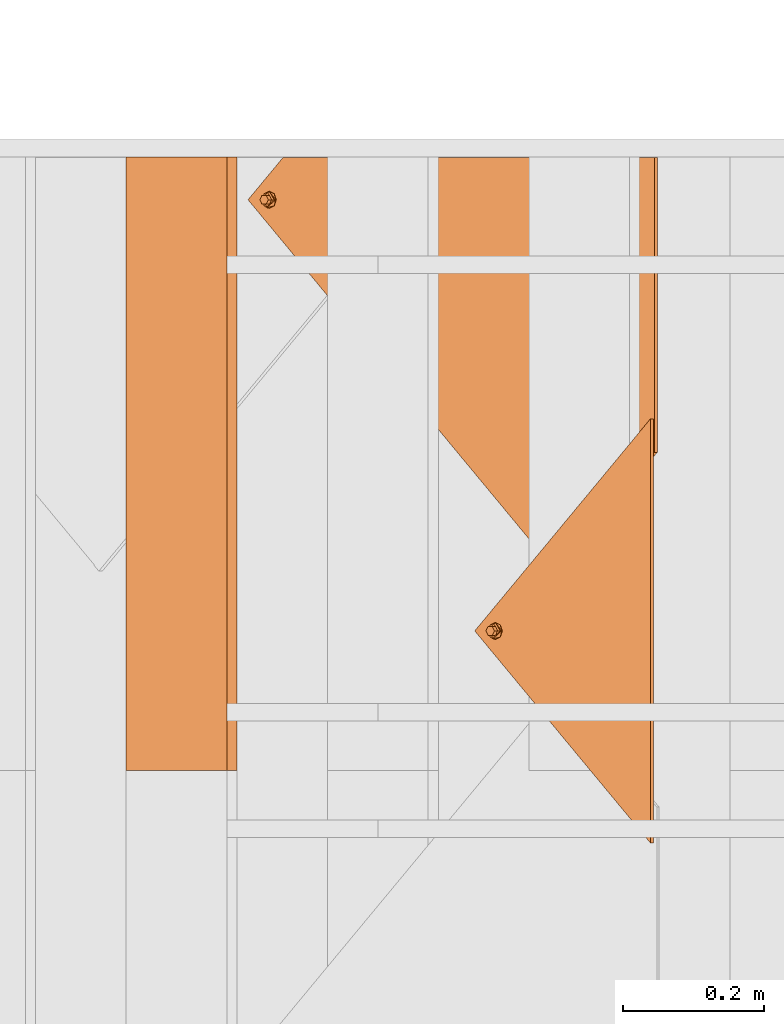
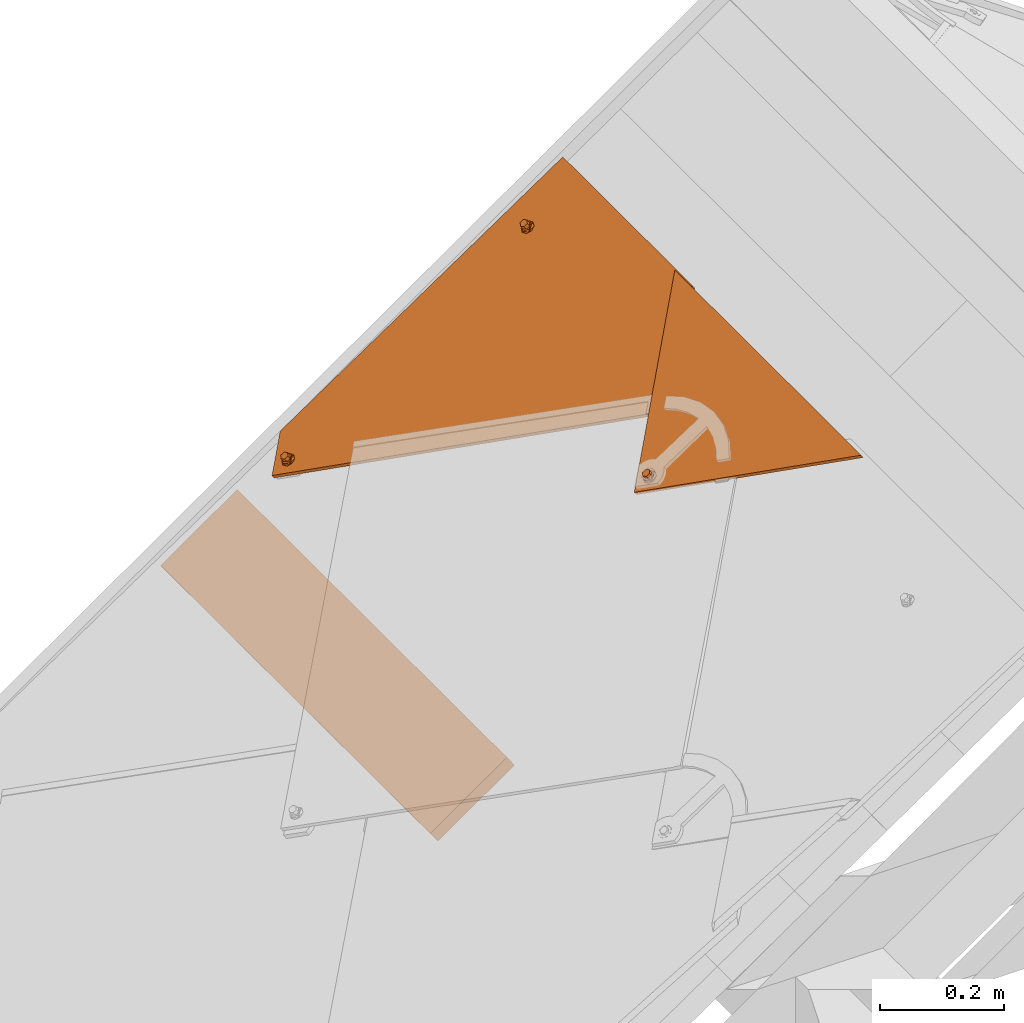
# One storey, part 108 of 133: 3 proxies, 1 element without a shape of its own.
"""IFC2X3 building model written with IfcOpenShell, lengths in millimetres."""

from ifc_helpers import new_model, entity, si_unit, converted_unit, derived_unit, direction, frame, frame_2d, origin, place, context, subcontext, project, spatial, rectangle, extrude, faceted_brep, source, transform, mapped, material, material_list, type_object, type_shapes, element, aggregate, save


model = new_model("IFC2X3")

# Units and contexts
model_context = context("Model", 3, precision=0.01, world=origin(), true_north=direction((6.12303176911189e-17, 1.0)))
body_context = subcontext(model_context, "Body", "Model", "MODEL_VIEW")
ifc_project = project(units=[si_unit("LENGTHUNIT", "METRE", prefix="MILLI"), si_unit("AREAUNIT", "SQUARE_METRE"), si_unit("VOLUMEUNIT", "CUBIC_METRE"), converted_unit("PLANEANGLEUNIT", "DEGREE", entity("IfcRatioMeasure", 0.0174532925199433), si_unit("PLANEANGLEUNIT", "RADIAN"), dimensions=[0, 0, 0, 0, 0, 0, 0]), si_unit("MASSUNIT", "GRAM", prefix="KILO"), derived_unit("MASSDENSITYUNIT", [(si_unit("MASSUNIT", "GRAM", prefix="KILO"), 1), (si_unit("LENGTHUNIT", "METRE"), -3)]), si_unit("TIMEUNIT", "SECOND"), si_unit("FREQUENCYUNIT", "HERTZ"), si_unit("THERMODYNAMICTEMPERATUREUNIT", "DEGREE_CELSIUS"), derived_unit("THERMALTRANSMITTANCEUNIT", [(si_unit("MASSUNIT", "GRAM", prefix="KILO"), 1), (si_unit("THERMODYNAMICTEMPERATUREUNIT", "KELVIN"), -1), (si_unit("TIMEUNIT", "SECOND"), -3)]), derived_unit("VOLUMETRICFLOWRATEUNIT", [(si_unit("LENGTHUNIT", "METRE"), 3), (si_unit("TIMEUNIT", "SECOND"), -1)]), si_unit("ELECTRICCURRENTUNIT", "AMPERE"), si_unit("ELECTRICVOLTAGEUNIT", "VOLT"), si_unit("POWERUNIT", "WATT"), si_unit("FORCEUNIT", "NEWTON", prefix="KILO"), si_unit("ILLUMINANCEUNIT", "LUX"), si_unit("LUMINOUSFLUXUNIT", "LUMEN"), si_unit("LUMINOUSINTENSITYUNIT", "CANDELA"), derived_unit("USERDEFINED", [(si_unit("MASSUNIT", "GRAM", prefix="KILO"), -1), (si_unit("LENGTHUNIT", "METRE"), -2), (si_unit("TIMEUNIT", "SECOND"), 3), (si_unit("LUMINOUSFLUXUNIT", "LUMEN"), 1)]), derived_unit("LINEARVELOCITYUNIT", [(si_unit("LENGTHUNIT", "METRE"), 1), (si_unit("TIMEUNIT", "SECOND"), -1)]), si_unit("PRESSUREUNIT", "PASCAL"), derived_unit("USERDEFINED", [(si_unit("LENGTHUNIT", "METRE"), -2), (si_unit("MASSUNIT", "GRAM", prefix="KILO"), 1), (si_unit("TIMEUNIT", "SECOND"), -2)])], contexts=[model_context])

# Site, building, storey
site_placement = place(None, origin())
site = spatial("IfcSite", under=ifc_project, at=site_placement, Name="Default", CompositionType="ELEMENT")
building_placement = place(site_placement, origin())
building = spatial("IfcBuilding", under=site, at=building_placement, CompositionType="ELEMENT")
storey_placement = place(building_placement, origin())
storey = spatial("IfcBuildingStorey", under=building, at=storey_placement, Name="Level 1", CompositionType="ELEMENT", Elevation=0.0)

# Assembly, proxy
assembly_placement = place(storey_placement, origin())
assembly = element("IfcElementAssembly", 1, at=assembly_placement, inside=storey, Name="Structural Framing Assembly:Roof Construction Assembly", ObjectType="Structural Framing Assembly:Roof Construction Assembly", AssemblyPlace="NOTDEFINED", PredefinedType="USERDEFINED")
ifc_material_1 = material(Name="Wood - Generic - Wood For Showcase")
building_element_proxy_type_1 = type_object("IfcBuildingElementProxyType", Name="Structural Framing 15", PredefinedType="NOTDEFINED", material=ifc_material_1)
shared_shape_1 = source(origin(), body_context, "Body", "SweptSolid", [
    extrude(rectangle(XDim=24.9999999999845, YDim=174.344679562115, at=frame_2d((-1.77635683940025e-13, -4.54747350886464e-13), x_axis=(0.0, 1.0))), frame((1128.20180147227, 3055.55080214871, 2760.23940055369), z_axis=(0.0, 1.0, 0.0), x_axis=(-0.819152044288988, 0.0, -0.573576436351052)), (0.0, 0.0, 1.0), 870.000000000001),
])
type_shapes(building_element_proxy_type_1, [shared_shape_1])
proxy_1_placement = place(assembly_placement, frame((-999.703604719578, 0.0, -700.0)))
proxy_1 = element("IfcBuildingElementProxy", 2, at=proxy_1_placement, type_object=building_element_proxy_type_1, material=ifc_material_1, Name="Structural Framing 54:Structural Framing 15", ObjectType="Structural Framing 54:Structural Framing 15", context=body_context, shape_type="MappedRepresentation", body=[
    mapped(shared_shape_1, transform((0.0, 0.0, 0.0), scale=1.0)),
])
aggregate(assembly, [proxy_1])

# Proxies
ifc_material_2 = material(Name="Rubber - Sunstyle - Black")
ifc_material_3 = material(Name="Glass - Sunstyle - Tainted Black")
ifc_material_list_1 = material_list([ifc_material_2, ifc_material_3])
ifc_material_list_2 = material_list([ifc_material_2, ifc_material_3])
building_element_proxy_type_2 = type_object("IfcBuildingElementProxyType", Name="Corner Top Big Left - Black", PredefinedType="NOTDEFINED", material=ifc_material_list_2)
shared_shape_2 = source(origin(), body_context, "Body", "Brep", [
    faceted_brep([(0.0, -33.9825851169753, -4.47296585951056), (-5.7742028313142, -37.3158552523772, -4.41714187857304), (-5.77420283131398, -36.9475461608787, 17.5747274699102), (0.0, -33.6142760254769, 17.5189034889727), (-5.77420283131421, -43.9823955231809, -4.30549391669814), (-5.77420283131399, -43.6140864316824, 17.6863754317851), (0.0, -47.3156656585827, -4.24966993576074), (0.0, -46.9473565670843, 17.7421994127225), (5.77420283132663, -43.9823955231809, -4.30549391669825), (5.77420283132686, -43.6140864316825, 17.686375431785), (5.77420283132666, -37.3158552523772, -4.41714187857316), (5.77420283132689, -36.9475461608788, 17.5747274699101), (-8.60370416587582, -48.8833141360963, 17.774621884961), (0.0, -52.4465854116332, 17.8342978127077), (-12.1674751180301, -40.2808162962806, 17.6305514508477), (-8.60370416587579, -31.6783184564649, 17.4864810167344), (0.0, -28.115047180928, 17.4268050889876), (8.60370416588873, -31.6783184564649, 17.4864810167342), (12.167475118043, -40.2808162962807, 17.6305514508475), (8.60370416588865, -48.8833141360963, 17.7746218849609), (-11.3242446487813, -37.9857391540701, 19.9433933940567), (-9.75647455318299, -40.2098014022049, 21.8708760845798), (0.0, -32.8967261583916, 22.5035764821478), (0.0, -31.6562285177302, 21.9232298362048), (0.0, -29.4986776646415, 20.9138547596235), (0.0, -51.8905414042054, 19.1093557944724), (0.0, -50.9469648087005, 21.273060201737), (0.0, -47.4975891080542, 22.748104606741), (0.0, -28.6280832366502, 18.719767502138), (-6.32324569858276, -43.8473733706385, 22.6869725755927), (-6.32324569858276, -36.5469418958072, 22.5647085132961), (11.3242446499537, -42.4971593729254, 20.0189484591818), (9.84888015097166, -41.2842078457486, 21.7920079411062), (6.32324569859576, -36.5469418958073, 22.564708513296), (6.32324569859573, -43.8473733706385, 22.6869725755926), (-6.32324569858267, -43.7133449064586, 30.6898607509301), (0.0, -47.3635606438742, 30.7509927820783), (0.0, -40.063129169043, 30.6287287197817), (-6.32324569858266, -36.4129134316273, 30.5675966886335), (6.32324569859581, -43.7133449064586, 30.68986075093), (6.32324569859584, -36.4129134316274, 30.5675966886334), (0.0, -32.7626976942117, 30.5064646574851), (0.0, -40.649125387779, -4.36131789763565)], [[[0, 1, 2, 3]], [[1, 4, 5, 2]], [[4, 6, 7, 5]], [[6, 8, 9, 7]], [[8, 10, 11, 9]], [[10, 0, 3, 11]], [[12, 7, 13]], [[7, 12, 5]], [[14, 5, 12]], [[5, 14, 2]], [[15, 2, 14]], [[3, 2, 15]], [[15, 16, 3]], [[16, 17, 3]], [[11, 3, 17]], [[11, 17, 18]], [[9, 11, 18]], [[18, 19, 9]], [[7, 9, 19]], [[19, 13, 7]], [[20, 14, 12]], [[21, 22, 23, 24]], [[24, 20, 21]], [[25, 20, 12]], [[26, 27, 21]], [[15, 14, 20]], [[12, 13, 25]], [[20, 28, 15]], [[28, 20, 24]], [[21, 27, 29]], [[21, 29, 30]], [[26, 21, 20]], [[20, 25, 26]], [[15, 28, 16]], [[21, 30, 22]], [[31, 18, 17]], [[28, 31, 17]], [[32, 27, 26]], [[26, 31, 32]], [[26, 25, 31]], [[25, 19, 31]], [[17, 16, 28]], [[31, 19, 18]], [[24, 31, 28]], [[33, 34, 32]], [[23, 22, 33]], [[24, 32, 31]], [[27, 32, 34]], [[32, 23, 33]], [[19, 25, 13]], [[32, 24, 23]], [[35, 36, 37]], [[37, 38, 35]], [[36, 39, 37]], [[40, 37, 39]], [[37, 40, 41]], [[37, 41, 38]], [[42, 6, 4]], [[4, 1, 42]], [[1, 0, 42]], [[42, 8, 6]], [[0, 10, 42]], [[8, 42, 10]], [[22, 30, 38, 41]], [[30, 29, 35, 38]], [[29, 27, 36, 35]], [[27, 34, 39, 36]], [[34, 33, 40, 39]], [[33, 22, 41, 40]]]),
    faceted_brep([(0.0, -572.517457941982, 4.0063690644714), (-5.77420283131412, -575.850728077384, 4.06219304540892), (-5.77420283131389, -575.482418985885, 26.0540623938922), (0.0, -572.149148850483, 25.9982384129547), (-5.77420283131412, -582.517268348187, 4.17384100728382), (-5.7742028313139, -582.148959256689, 26.1657103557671), (0.0, -585.850538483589, 4.22966498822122), (0.0, -585.482229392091, 26.2215343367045), (5.77420283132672, -582.517268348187, 4.17384100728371), (5.77420283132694, -582.148959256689, 26.165710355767), (5.77420283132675, -575.850728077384, 4.0621930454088), (5.77420283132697, -575.482418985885, 26.0540623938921), (-8.60370416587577, -587.418186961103, 26.253956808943), (0.0, -590.98145823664, 26.3136327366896), (-12.1674751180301, -578.815689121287, 26.1098863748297), (-8.60370416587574, -570.213191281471, 25.9658159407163), (0.0, -566.649920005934, 25.9061400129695), (8.60370416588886, -570.213191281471, 25.9658159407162), (12.1674751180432, -578.815689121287, 26.1098863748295), (8.60370416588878, -587.418186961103, 26.2539568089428), (-11.3242446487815, -576.520611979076, 28.4227283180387), (-9.75647455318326, -578.744674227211, 30.3502110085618), (0.0, -571.431598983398, 30.9829114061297), (0.0, -570.191101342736, 30.4025647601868), (0.0, -568.033550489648, 29.3931896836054), (0.0, -590.425414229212, 27.5886907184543), (0.0, -589.481837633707, 29.752395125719), (0.0, -586.032461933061, 31.227439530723), (0.0, -567.162956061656, 27.1991024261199), (-6.32324569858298, -582.382246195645, 31.1663074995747), (-6.32324569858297, -575.081814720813, 31.0440434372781), (11.3242446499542, -581.032032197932, 28.4982833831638), (9.8488801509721, -579.819080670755, 30.2713428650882), (6.32324569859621, -575.081814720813, 31.044043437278), (6.32324569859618, -582.382246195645, 31.1663074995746), (-6.32324569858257, -582.248217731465, 39.1691956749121), (0.0, -585.898433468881, 39.2303277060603), (0.0, -578.598001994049, 39.1080636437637), (-6.32324569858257, -574.947786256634, 39.0469316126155), (6.32324569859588, -582.248217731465, 39.1691956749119), (6.32324569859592, -574.947786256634, 39.0469316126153), (0.0, -571.297570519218, 38.9857995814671), (0.0, -579.183998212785, 4.1180170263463)], [[[0, 1, 2, 3]], [[1, 4, 5, 2]], [[4, 6, 7, 5]], [[6, 8, 9, 7]], [[8, 10, 11, 9]], [[10, 0, 3, 11]], [[12, 7, 13]], [[7, 12, 5]], [[14, 5, 12]], [[5, 14, 2]], [[15, 2, 14]], [[3, 2, 15]], [[15, 16, 3]], [[16, 17, 3]], [[11, 3, 17]], [[11, 17, 18]], [[9, 11, 18]], [[18, 19, 9]], [[7, 9, 19]], [[19, 13, 7]], [[20, 14, 12]], [[21, 22, 23, 24]], [[24, 20, 21]], [[25, 20, 12]], [[26, 27, 21]], [[15, 14, 20]], [[12, 13, 25]], [[20, 28, 15]], [[28, 20, 24]], [[21, 27, 29]], [[21, 29, 30]], [[26, 21, 20]], [[20, 25, 26]], [[15, 28, 16]], [[21, 30, 22]], [[31, 18, 17]], [[28, 31, 17]], [[32, 27, 26]], [[26, 31, 32]], [[26, 25, 31]], [[25, 19, 31]], [[17, 16, 28]], [[31, 19, 18]], [[24, 31, 28]], [[33, 34, 32]], [[23, 22, 33]], [[24, 32, 31]], [[27, 32, 34]], [[32, 23, 33]], [[19, 25, 13]], [[32, 24, 23]], [[35, 36, 37]], [[37, 38, 35]], [[36, 39, 37]], [[40, 37, 39]], [[37, 40, 41]], [[37, 41, 38]], [[42, 6, 4]], [[4, 1, 42]], [[1, 0, 42]], [[42, 8, 6]], [[0, 10, 42]], [[8, 42, 10]], [[22, 30, 38, 41]], [[30, 29, 35, 38]], [[29, 27, 36, 35]], [[27, 34, 39, 36]], [[34, 33, 40, 39]], [[33, 22, 41, 40]]]),
    faceted_brep([(518.469870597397, -96.888376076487, 17.926263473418), (526.954557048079, -88.4036896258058, 17.7841660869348), (526.954557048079, -88.3785718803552, 19.2839557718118), (518.469870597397, -96.8632583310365, 19.426053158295), (349.749078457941, 71.7851066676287, 15.1014023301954), (358.233764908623, 80.2697931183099, 14.9593049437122), (358.233764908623, 80.2949108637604, 16.4590946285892), (349.749078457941, 71.8102244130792, 16.6011920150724)], [[[0, 1, 2, 3]], [[1, 0, 4, 5]], [[2, 1, 5, 6]], [[3, 2, 6, 7]], [[0, 3, 7, 4]], [[4, 7, 6, 5]]]),
    faceted_brep([(358.233764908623, 80.2697931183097, 14.9593049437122), (6.92820323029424, -35.9783347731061, 16.9061718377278), (7.72740661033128, -37.9075118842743, 16.9384807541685), (5.6568542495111, -34.321712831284, 16.8784275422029), (8.0, -39.9777739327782, 16.9731524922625), (7.72740661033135, -42.0480359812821, 17.0078242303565), (6.92820323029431, -43.9772130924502, 17.0401331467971), (526.954557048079, -88.4036896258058, 17.7841660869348), (-60.1037538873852, 80.269793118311, 14.9593049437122), (4.0, -33.0505421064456, 16.8571385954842), (2.07055236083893, -32.2514507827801, 16.8437558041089), (0.0, -31.9788956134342, 16.8391911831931), (-2.07055236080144, -32.2514507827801, 16.8437558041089), (-4.0, -33.0505421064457, 16.8571385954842), (-5.6568542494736, -34.321712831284, 16.8784275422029), (-6.92820323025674, -35.9783347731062, 16.9061718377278), (-7.72740661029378, -37.9075118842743, 16.9384807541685), (-8.0, -39.9777739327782, 16.9731524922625), (-7.72740661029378, -42.0480359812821, 17.0078242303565), (-60.1037538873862, -555.122942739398, 25.6005522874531), (-6.92820323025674, -43.9772130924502, 17.0401331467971), (-5.6568542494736, -45.6338350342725, 17.067877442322), (-4.0, -46.9050057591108, 17.0891663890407), (-2.07055236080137, -47.7040970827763, 17.102549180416), (0.0, -47.9766522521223, 17.1071138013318), (2.07055236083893, -47.7040970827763, 17.102549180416), (2.00505600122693, -570.990105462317, 25.8662877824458), (-0.0654963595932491, -570.717550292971, 25.8617231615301), (-2.13604872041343, -570.990105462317, 25.8662877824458), (-4.06549635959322, -571.789196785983, 25.8796705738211), (-5.7223506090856, -573.060367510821, 25.9009595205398), (-6.99369958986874, -574.716989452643, 25.9287038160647), (-7.79290296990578, -576.646166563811, 25.9610127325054), (-8.06549635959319, -578.716428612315, 25.9956844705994), (-7.79290296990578, -580.786690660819, 26.0303562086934), (-6.99369958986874, -582.715867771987, 26.062665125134), (0.00032251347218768, -615.210165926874, 26.6068637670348), (7.66191025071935, -580.786690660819, 26.0303562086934), (6.86270687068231, -582.715867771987, 26.062665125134), (5.59135788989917, -584.37248971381, 26.0904094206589), (3.93450364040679, -585.643660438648, 26.1116983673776), (2.005056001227, -586.442751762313, 26.1250811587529), (-0.0654963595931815, -586.715306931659, 26.1296457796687), (-2.13604872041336, -586.442751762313, 26.1250811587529), (-4.06549635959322, -585.643660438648, 26.1116983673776), (-5.7223506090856, -584.37248971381, 26.0904094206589), (3.93450364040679, -571.789196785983, 25.8796705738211), (4.0, -46.9050057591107, 17.0891663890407), (5.59135788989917, -573.060367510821, 25.9009595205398), (5.65685424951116, -45.6338350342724, 17.067877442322), (6.86270687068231, -574.716989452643, 25.9287038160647), (7.66191025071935, -576.646166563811, 25.9610127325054), (7.93450364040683, -578.716428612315, 25.9956844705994), (-60.1037538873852, 80.1442043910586, 7.46035651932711), (-6.92820323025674, -36.1039235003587, 9.40722341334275), (-7.72740661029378, -38.0331006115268, 9.4395323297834), (-5.6568542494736, -34.4473015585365, 9.37947911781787), (-8.0, -40.1033626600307, 9.4742040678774), (-7.72740661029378, -42.1736247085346, 9.5088758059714), (-60.1037538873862, -555.248531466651, 18.101603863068), (-4.0, -33.1761308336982, 9.35819017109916), (-2.07055236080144, -32.3770395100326, 9.34480737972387), (0.0, -32.1044843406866, 9.34024275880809), (2.07055236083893, -32.3770395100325, 9.34480737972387), (4.0, -33.1761308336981, 9.35819017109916), (5.6568542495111, -34.4473015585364, 9.37947911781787), (358.233764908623, 80.1442043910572, 7.46035651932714), (6.92820323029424, -36.1039235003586, 9.40722341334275), (7.72740661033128, -38.0331006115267, 9.4395323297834), (8.0, -40.1033626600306, 9.4742040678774), (7.72740661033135, -42.1736247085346, 9.5088758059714), (6.92820323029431, -44.1028018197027, 9.54118472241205), (526.954557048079, -88.5292783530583, 10.2852176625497), (5.65685424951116, -45.7594237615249, 9.56892901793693), (5.59135788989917, -573.185956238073, 18.4020110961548), (6.86270687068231, -574.842578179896, 18.4297553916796), (7.66191025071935, -576.771755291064, 18.4620643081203), (7.93450364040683, -578.842017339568, 18.4967360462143), (7.66191025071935, -580.912279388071, 18.5314077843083), (0.00032251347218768, -615.335754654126, 19.1079153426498), (-6.99369958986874, -582.84145649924, 18.563716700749), (-5.7223506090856, -584.498078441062, 18.5914609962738), (-4.06549635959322, -585.7692491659, 18.6127499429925), (-2.13604872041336, -586.568340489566, 18.6261327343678), (-0.0654963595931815, -586.840895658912, 18.6306973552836), (2.005056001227, -586.568340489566, 18.6261327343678), (3.93450364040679, -585.7692491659, 18.6127499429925), (5.59135788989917, -584.498078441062, 18.5914609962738), (6.86270687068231, -582.84145649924, 18.563716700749), (4.0, -47.0305944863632, 9.59021796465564), (3.93450364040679, -571.914785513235, 18.3807221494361), (2.07055236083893, -47.8296858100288, 9.60360075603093), (2.00505600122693, -571.115694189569, 18.3673393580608), (-0.0654963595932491, -570.843139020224, 18.362774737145), (-2.13604872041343, -571.11569418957, 18.3673393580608), (-4.06549635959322, -571.914785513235, 18.3807221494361), (-5.7223506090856, -573.185956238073, 18.4020110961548), (-6.99369958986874, -574.842578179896, 18.4297553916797), (-7.79290296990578, -576.771755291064, 18.4620643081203), (-8.06549635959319, -578.842017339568, 18.4967360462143), (-7.79290296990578, -580.912279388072, 18.5314077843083), (0.0, -48.1022409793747, 9.60816537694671), (-6.92820323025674, -44.1028018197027, 9.54118472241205), (-5.6568542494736, -45.7594237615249, 9.56892901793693), (-4.0, -47.0305944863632, 9.59021796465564), (-2.07055236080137, -47.8296858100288, 9.60360075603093)], [[[0, 1, 2]], [[1, 0, 3]], [[0, 2, 4]], [[4, 5, 0]], [[5, 6, 0]], [[7, 0, 6]], [[8, 3, 0]], [[8, 9, 3]], [[8, 10, 9]], [[11, 10, 8]], [[12, 11, 8]], [[13, 12, 8]], [[8, 14, 13]], [[14, 8, 15]], [[15, 8, 16]], [[17, 16, 8]], [[18, 17, 8]], [[18, 8, 19]], [[19, 20, 18]], [[21, 20, 19]], [[22, 21, 19]], [[23, 22, 19]], [[19, 24, 23]], [[19, 25, 24]], [[26, 25, 19]], [[26, 19, 27]], [[28, 27, 19]], [[29, 28, 19]], [[29, 19, 30]], [[19, 31, 30]], [[31, 19, 32]], [[32, 19, 33]], [[34, 33, 19]], [[35, 34, 19]], [[35, 19, 36]], [[7, 37, 36]], [[36, 37, 38]], [[39, 36, 38]], [[39, 40, 36]], [[41, 36, 40]], [[42, 36, 41]], [[42, 43, 36]], [[43, 44, 36]], [[45, 35, 36]], [[45, 36, 44]], [[25, 26, 46]], [[46, 47, 25]], [[48, 47, 46]], [[48, 49, 47]], [[50, 7, 48]], [[48, 7, 49]], [[7, 50, 51]], [[7, 51, 52]], [[52, 37, 7]], [[7, 6, 49]], [[53, 54, 55]], [[54, 53, 56]], [[53, 55, 57]], [[58, 53, 57]], [[53, 58, 59]], [[60, 56, 53]], [[61, 60, 53]], [[53, 62, 61]], [[62, 53, 63]], [[63, 53, 64]], [[53, 65, 64]], [[65, 53, 66]], [[66, 67, 65]], [[67, 66, 68]], [[68, 66, 69]], [[70, 69, 66]], [[71, 70, 66]], [[71, 66, 72]], [[72, 73, 71]], [[73, 72, 74]], [[74, 72, 75]], [[75, 72, 76]], [[77, 76, 72]], [[78, 77, 72]], [[78, 72, 79]], [[59, 80, 79]], [[79, 80, 81]], [[79, 81, 82]], [[82, 83, 79]], [[83, 84, 79]], [[79, 84, 85]], [[79, 85, 86]], [[86, 87, 79]], [[79, 87, 88]], [[79, 88, 78]], [[73, 74, 89]], [[90, 89, 74]], [[90, 91, 89]], [[91, 90, 92]], [[93, 59, 92]], [[92, 59, 91]], [[93, 94, 59]], [[94, 95, 59]], [[95, 96, 59]], [[97, 59, 96]], [[97, 98, 59]], [[98, 99, 59]], [[99, 100, 59]], [[100, 80, 59]], [[59, 101, 91]], [[102, 59, 58]], [[102, 103, 59]], [[103, 104, 59]], [[104, 105, 59]], [[59, 105, 101]], [[36, 19, 59, 79]], [[7, 36, 79, 72]], [[0, 7, 72, 66]], [[33, 99, 98, 32]], [[32, 98, 97, 31]], [[29, 30, 96, 95]], [[96, 30, 31, 97]], [[28, 29, 95, 94]], [[28, 94, 93, 27]], [[27, 93, 92, 26]], [[26, 92, 90, 46]], [[50, 48, 74, 75]], [[74, 48, 46, 90]], [[51, 50, 75, 76]], [[51, 76, 77, 52]], [[52, 77, 78, 37]], [[37, 78, 88, 38]], [[40, 39, 87, 86]], [[87, 39, 38, 88]], [[41, 40, 86, 85]], [[41, 85, 84, 42]], [[42, 84, 83, 43]], [[43, 83, 82, 44]], [[35, 45, 81, 80]], [[81, 45, 44, 82]], [[34, 35, 80, 100]], [[34, 100, 99, 33]], [[17, 57, 55, 16]], [[16, 55, 54, 15]], [[13, 14, 56, 60]], [[56, 14, 15, 54]], [[12, 13, 60, 61]], [[12, 61, 62, 11]], [[11, 62, 63, 10]], [[10, 63, 64, 9]], [[1, 3, 65, 67]], [[65, 3, 9, 64]], [[2, 1, 67, 68]], [[2, 68, 69, 4]], [[4, 69, 70, 5]], [[5, 70, 71, 6]], [[47, 49, 73, 89]], [[73, 49, 6, 71]], [[25, 47, 89, 91]], [[25, 91, 101, 24]], [[24, 101, 105, 23]], [[23, 105, 104, 22]], [[20, 21, 103, 102]], [[103, 21, 22, 104]], [[18, 20, 102, 58]], [[18, 58, 57, 17]], [[19, 8, 53, 59]], [[8, 0, 66, 53]]]),
])
type_shapes(building_element_proxy_type_2, [shared_shape_2])
proxy_2_placement = place(storey_placement, frame((741.905871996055, 3865.09519417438, 2505.01176111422), z_axis=(-0.57357643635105, 0.0, 0.819152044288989), x_axis=(0.0, -1.0, 0.0)))
element("IfcBuildingElementProxy", 3, at=proxy_2_placement, inside=storey, type_object=building_element_proxy_type_2, material=ifc_material_list_1, Name="Roofing_Panels_SunStyle_Tile_Corner-Top-Big-Left:Corner Top Big Left - Black", ObjectType="Roofing_Panels_SunStyle_Tile_Corner-Top-Big-Left:Corner Top Big Left - Black", context=body_context, shape_type="MappedRepresentation", body=[
    mapped(shared_shape_2, transform((0.0, 0.0, 0.0), scale=1.0)),
])
ifc_material_list_3 = material_list([ifc_material_2, ifc_material_3])
ifc_material_list_4 = material_list([ifc_material_2, ifc_material_3])
building_element_proxy_type_3 = type_object("IfcBuildingElementProxyType", Name="Shingle Top Small - Black", PredefinedType="NOTDEFINED", material=ifc_material_list_4)
shared_shape_3 = source(origin(), body_context, "Body", "Brep", [
    faceted_brep([(300.675008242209, 41.77298489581, 1.59527223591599), (294.900805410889, 38.4397147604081, 1.65109621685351), (294.900805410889, 38.8080238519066, 23.6429655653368), (300.675008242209, 42.1412939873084, 23.5871415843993), (294.900805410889, 31.7731744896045, 1.76274417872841), (294.900805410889, 32.1414835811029, 23.7546135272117), (300.675008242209, 28.4399043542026, 1.81856815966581), (300.675008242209, 28.808213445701, 23.8104375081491), (306.44921107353, 31.7731744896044, 1.7627441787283), (306.44921107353, 32.1414835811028, 23.7546135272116), (306.44921107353, 38.4397147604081, 1.65109621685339), (306.44921107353, 38.8080238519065, 23.6429655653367), (292.071304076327, 26.8722558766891, 23.8428599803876), (300.675008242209, 23.3089846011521, 23.9025359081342), (288.507533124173, 35.4747537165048, 23.6987895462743), (292.071304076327, 44.0772515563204, 23.5547191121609), (300.675008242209, 47.6405228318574, 23.4950431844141), (309.278712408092, 44.0772515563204, 23.5547191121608), (312.842483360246, 35.4747537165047, 23.6987895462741), (309.278712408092, 26.872255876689, 23.8428599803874), (289.350763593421, 37.7698308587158, 26.0116314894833), (290.91853368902, 35.5457686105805, 27.9391141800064), (300.67500824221, 42.8588438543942, 28.5718145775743), (300.67500824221, 44.0993414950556, 27.9914679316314), (300.675008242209, 46.2568923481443, 26.98209285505), (300.675008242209, 23.8650286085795, 25.1775938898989), (300.675008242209, 24.8086052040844, 27.3412982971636), (300.675008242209, 28.2579809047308, 28.8163427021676), (300.675008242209, 47.1274867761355, 24.7880055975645), (294.35176254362, 31.9081966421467, 28.7552106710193), (294.35176254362, 39.2086281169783, 28.6329466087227), (311.999252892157, 33.2584106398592, 26.0871865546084), (310.523888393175, 34.4713621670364, 27.8602460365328), (306.998253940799, 39.2086281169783, 28.6329466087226), (306.998253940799, 31.9081966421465, 28.7552106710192), (294.35176254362, 32.0422251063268, 36.7580988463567), (300.67500824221, 28.3920093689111, 36.8192308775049), (300.67500824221, 35.6924408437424, 36.6969668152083), (294.35176254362, 39.342656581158, 36.6358347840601), (306.998253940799, 32.0422251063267, 36.7580988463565), (306.998253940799, 39.342656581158, 36.6358347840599), (300.67500824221, 42.9928723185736, 36.5747027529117), (300.675008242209, 35.1064446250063, 1.7069201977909)], [[[0, 1, 2, 3]], [[1, 4, 5, 2]], [[4, 6, 7, 5]], [[6, 8, 9, 7]], [[8, 10, 11, 9]], [[10, 0, 3, 11]], [[12, 7, 13]], [[7, 12, 5]], [[14, 5, 12]], [[5, 14, 2]], [[15, 2, 14]], [[3, 2, 15]], [[15, 16, 3]], [[16, 17, 3]], [[11, 3, 17]], [[11, 17, 18]], [[9, 11, 18]], [[18, 19, 9]], [[7, 9, 19]], [[19, 13, 7]], [[20, 14, 12]], [[21, 22, 23, 24]], [[24, 20, 21]], [[25, 20, 12]], [[26, 27, 21]], [[15, 14, 20]], [[12, 13, 25]], [[20, 28, 15]], [[28, 20, 24]], [[21, 27, 29]], [[21, 29, 30]], [[26, 21, 20]], [[20, 25, 26]], [[15, 28, 16]], [[21, 30, 22]], [[31, 18, 17]], [[28, 31, 17]], [[32, 27, 26]], [[26, 31, 32]], [[26, 25, 31]], [[25, 19, 31]], [[17, 16, 28]], [[31, 19, 18]], [[24, 31, 28]], [[33, 34, 32]], [[23, 22, 33]], [[24, 32, 31]], [[27, 32, 34]], [[32, 23, 33]], [[19, 25, 13]], [[32, 24, 23]], [[35, 36, 37]], [[37, 38, 35]], [[36, 39, 37]], [[40, 37, 39]], [[37, 40, 41]], [[37, 41, 38]], [[42, 6, 4]], [[4, 1, 42]], [[1, 0, 42]], [[42, 8, 6]], [[0, 10, 42]], [[8, 42, 10]], [[22, 30, 38, 41]], [[30, 29, 35, 38]], [[29, 27, 36, 35]], [[27, 34, 39, 36]], [[34, 33, 40, 39]], [[33, 22, 41, 40]]]),
    faceted_brep([(601.350661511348, 300.716609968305, 19.1616152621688), (307.603211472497, 39.4797476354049, 23.5366826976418), (308.402414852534, 37.5505705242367, 23.5689916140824), (306.331862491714, 41.1363695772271, 23.5089384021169), (308.675008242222, 35.4803084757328, 23.6036633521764), (304.675008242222, 42.4075403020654, 23.4876494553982), (302.745560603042, 43.206631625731, 23.4742666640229), (300.675008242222, 43.4791867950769, 23.4697020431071), (308.402414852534, 33.4100464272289, 23.6383350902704), (300.675330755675, 0.125588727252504, 24.1957669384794), (0.0, 300.716609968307, 19.1616152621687), (298.604455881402, 43.2066316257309, 23.4742666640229), (296.675008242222, 42.4075403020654, 23.4876494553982), (295.018153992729, 41.136369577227, 23.5089384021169), (293.746805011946, 39.4797476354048, 23.5366826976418), (292.947601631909, 37.5505705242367, 23.5689916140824), (292.675008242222, 35.4803084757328, 23.6036633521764), (292.947601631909, 33.4100464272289, 23.6383350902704), (293.746805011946, 31.4808693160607, 23.6706440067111), (307.603211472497, 31.4808693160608, 23.6706440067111), (306.331862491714, 29.8242473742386, 23.698388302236), (304.675008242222, 28.5530766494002, 23.7196772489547), (302.745560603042, 27.7539853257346, 23.73306004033), (300.675008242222, 27.4814301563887, 23.7376246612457), (298.604455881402, 27.7539853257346, 23.73306004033), (296.675008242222, 28.5530766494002, 23.7196772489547), (295.018153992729, 29.8242473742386, 23.698388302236), (0.0, 300.591021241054, 11.6626668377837), (295.018153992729, 41.0107808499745, 16.0099899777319), (293.746805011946, 39.3541589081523, 16.0377342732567), (296.675008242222, 42.2819515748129, 15.9887010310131), (292.947601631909, 37.4249817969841, 16.0700431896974), (298.604455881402, 43.0810428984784, 15.9753182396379), (300.675008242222, 43.3535980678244, 15.9707536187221), (601.350661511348, 300.591021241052, 11.6626668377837), (292.675008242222, 35.3547197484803, 16.1047149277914), (292.947601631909, 33.2844576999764, 16.1393866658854), (300.675330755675, 0.0, 16.6968185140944), (302.745560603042, 43.0810428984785, 15.9753182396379), (304.675008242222, 42.2819515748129, 15.9887010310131), (306.331862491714, 41.0107808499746, 16.0099899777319), (307.603211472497, 39.3541589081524, 16.0377342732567), (308.402414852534, 37.4249817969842, 16.0700431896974), (308.675008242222, 35.3547197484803, 16.1047149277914), (308.402414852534, 33.2844576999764, 16.1393866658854), (307.603211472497, 31.3552805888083, 16.171695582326), (293.746805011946, 31.3552805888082, 16.171695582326), (295.018153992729, 29.6986586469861, 16.1994398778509), (296.675008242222, 28.4274879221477, 16.2207288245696), (298.604455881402, 27.6283965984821, 16.2341116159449), (300.675008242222, 27.3558414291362, 16.2386762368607), (302.745560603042, 27.6283965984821, 16.2341116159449), (304.675008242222, 28.4274879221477, 16.2207288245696), (306.331862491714, 29.6986586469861, 16.1994398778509)], [[[0, 1, 2]], [[1, 0, 3]], [[0, 2, 4]], [[5, 3, 0]], [[6, 5, 0]], [[0, 7, 6]], [[4, 8, 0]], [[8, 9, 0]], [[7, 0, 10]], [[11, 7, 10]], [[12, 11, 10]], [[10, 13, 12]], [[13, 10, 14]], [[15, 14, 10]], [[10, 16, 15]], [[17, 16, 10]], [[10, 9, 17]], [[17, 9, 18]], [[8, 19, 9]], [[20, 9, 19]], [[20, 21, 9]], [[22, 9, 21]], [[23, 9, 22]], [[23, 24, 9]], [[24, 25, 9]], [[25, 26, 9]], [[9, 26, 18]], [[27, 28, 29]], [[28, 27, 30]], [[27, 29, 31]], [[32, 30, 27]], [[33, 32, 27]], [[27, 34, 33]], [[31, 35, 27]], [[35, 36, 27]], [[27, 36, 37]], [[38, 33, 34]], [[39, 38, 34]], [[40, 39, 34]], [[34, 41, 40]], [[41, 34, 42]], [[43, 42, 34]], [[34, 44, 43]], [[37, 44, 34]], [[45, 44, 37]], [[37, 36, 46]], [[37, 46, 47]], [[47, 48, 37]], [[48, 49, 37]], [[50, 37, 49]], [[50, 51, 37]], [[37, 51, 52]], [[52, 53, 37]], [[45, 37, 53]], [[9, 10, 27, 37]], [[0, 9, 37, 34]], [[16, 35, 31, 15]], [[15, 31, 29, 14]], [[12, 13, 28, 30]], [[28, 13, 14, 29]], [[11, 12, 30, 32]], [[11, 32, 33, 7]], [[7, 33, 38, 6]], [[6, 38, 39, 5]], [[1, 3, 40, 41]], [[40, 3, 5, 39]], [[2, 1, 41, 42]], [[2, 42, 43, 4]], [[4, 43, 44, 8]], [[8, 44, 45, 19]], [[21, 20, 53, 52]], [[53, 20, 19, 45]], [[22, 21, 52, 51]], [[22, 51, 50, 23]], [[23, 50, 49, 24]], [[24, 49, 48, 25]], [[18, 26, 47, 46]], [[47, 26, 25, 48]], [[17, 18, 46, 36]], [[17, 36, 35, 16]], [[10, 0, 34, 27]]]),
])
type_shapes(building_element_proxy_type_3, [shared_shape_3])
proxy_3_placement = place(storey_placement, frame((558.08799072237, 3554.12586888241, 2379.24450072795), z_axis=(-0.57357643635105, 0.0, 0.819152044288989), x_axis=(0.0, -1.0, 0.0)))
element("IfcBuildingElementProxy", 4, at=proxy_3_placement, inside=storey, type_object=building_element_proxy_type_3, material=ifc_material_list_3, Name="Roofing_Panels_SunStyle_Tile_Shingle-Top-Small:Shingle Top Small - Black", ObjectType="Roofing_Panels_SunStyle_Tile_Shingle-Top-Small:Shingle Top Small - Black", context=body_context, shape_type="MappedRepresentation", body=[
    mapped(shared_shape_3, transform((0.0, 0.0, 0.0), scale=1.0)),
])

save(model, "model.ifc")
